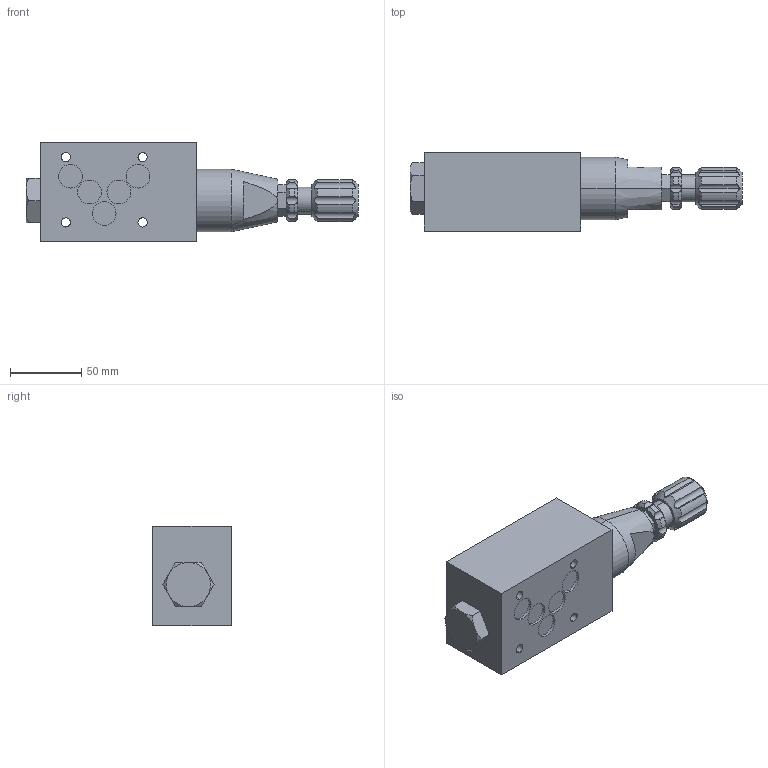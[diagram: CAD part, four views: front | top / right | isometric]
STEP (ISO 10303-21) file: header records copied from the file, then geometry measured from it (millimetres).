
FILE_DESCRIPTION (( 'STEP AP203' ), '1' );
FILE_NAME ('7DYJ-03P詁樓宒熬揤概.STEP', '2020-11-12T01:15:56', ( 'chen' ), ( '' ), 'SwSTEP 2.0', 'SolidWorks 2018', '' );
FILE_SCHEMA (( 'CONFIG_CONTROL_DESIGN' ));
Length unit declared in the file: millimetre
Products named in the file (1): 7DYJ-03P詁樓宒熬揤概
Bounding box: 233.5 x 55 x 70 mm (x, y, z)
Volume: 518444.3 mm3; surface area: 55176.8 mm2
Topology: 1 solids, 1 shells, 136 faces, 326 edges, 208 vertices
Faces by surface type: cylinder 64, plane 38, cone 28, bspline 6
Entity records: 4891 total; most frequent: CARTESIAN_POINT 1737, ORIENTED_EDGE 652, DIRECTION 618, EDGE_CURVE 326, AXIS2_PLACEMENT_3D 249, VERTEX_POINT 208, EDGE_LOOP 160, FACE_OUTER_BOUND 136
